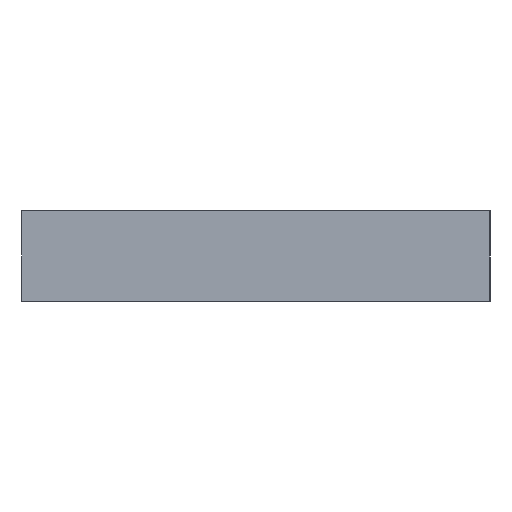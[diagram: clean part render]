
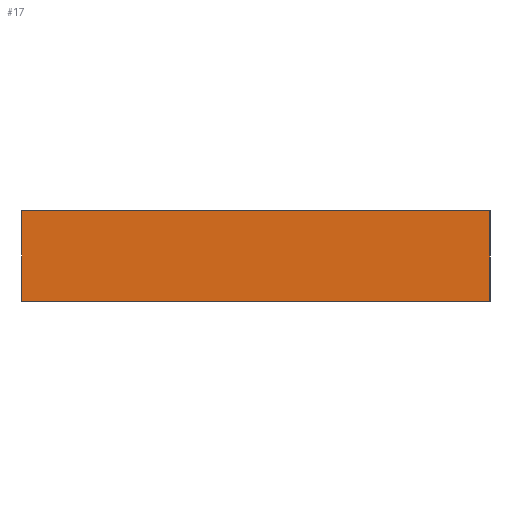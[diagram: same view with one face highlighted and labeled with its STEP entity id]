
A CAD part, left-side view. The second image highlights one B-rep face of the part: STEP entity #17.
In plain terms, the highlighted planar face has unit normal (-1, 0, 0).
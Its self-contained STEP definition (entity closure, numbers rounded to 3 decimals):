
#17 = ADVANCED_FACE('',(#18),#32,.F.);
#18 = FACE_BOUND('',#19,.F.);
#19 = EDGE_LOOP('',(#20,#55,#83,#111));
#20 = ORIENTED_EDGE('',*,*,#21,.F.);
#21 = EDGE_CURVE('',#22,#24,#26,.T.);
#22 = VERTEX_POINT('',#23);
#23 = CARTESIAN_POINT('',(0.,55.,10.6));
#24 = VERTEX_POINT('',#25);
#25 = CARTESIAN_POINT('',(0.,55.,0.));
#26 = SURFACE_CURVE('',#27,(#31,#43),.PCURVE_S1.);
#27 = LINE('',#28,#29);
#28 = CARTESIAN_POINT('',(0.,55.,10.6));
#29 = VECTOR('',#30,1.);
#30 = DIRECTION('',(0.,0.,-1.));
#31 = PCURVE('',#32,#37);
#32 = PLANE('',#33);
#33 = AXIS2_PLACEMENT_3D('',#34,#35,#36);
#34 = CARTESIAN_POINT('',(0.,55.,10.6));
#35 = DIRECTION('',(1.,0.,0.));
#36 = DIRECTION('',(0.,0.,-1.));
#37 = DEFINITIONAL_REPRESENTATION('',(#38),#42);
#38 = LINE('',#39,#40);
#39 = CARTESIAN_POINT('',(0.,0.));
#40 = VECTOR('',#41,1.);
#41 = DIRECTION('',(1.,0.));
#42 = ( GEOMETRIC_REPRESENTATION_CONTEXT(2) 
PARAMETRIC_REPRESENTATION_CONTEXT() REPRESENTATION_CONTEXT('2D SPACE',''
  ) );
#43 = PCURVE('',#44,#49);
#44 = PLANE('',#45);
#45 = AXIS2_PLACEMENT_3D('',#46,#47,#48);
#46 = CARTESIAN_POINT('',(0.,55.,10.6));
#47 = DIRECTION('',(0.,-1.,0.));
#48 = DIRECTION('',(0.,0.,-1.));
#49 = DEFINITIONAL_REPRESENTATION('',(#50),#54);
#50 = LINE('',#51,#52);
#51 = CARTESIAN_POINT('',(0.,0.));
#52 = VECTOR('',#53,1.);
#53 = DIRECTION('',(1.,0.));
#54 = ( GEOMETRIC_REPRESENTATION_CONTEXT(2) 
PARAMETRIC_REPRESENTATION_CONTEXT() REPRESENTATION_CONTEXT('2D SPACE',''
  ) );
#55 = ORIENTED_EDGE('',*,*,#56,.T.);
#56 = EDGE_CURVE('',#22,#57,#59,.T.);
#57 = VERTEX_POINT('',#58);
#58 = CARTESIAN_POINT('',(0.,0.,10.6));
#59 = SURFACE_CURVE('',#60,(#64,#71),.PCURVE_S1.);
#60 = LINE('',#61,#62);
#61 = CARTESIAN_POINT('',(0.,55.,10.6));
#62 = VECTOR('',#63,1.);
#63 = DIRECTION('',(0.,-1.,0.));
#64 = PCURVE('',#32,#65);
#65 = DEFINITIONAL_REPRESENTATION('',(#66),#70);
#66 = LINE('',#67,#68);
#67 = CARTESIAN_POINT('',(0.,0.));
#68 = VECTOR('',#69,1.);
#69 = DIRECTION('',(0.,-1.));
#70 = ( GEOMETRIC_REPRESENTATION_CONTEXT(2) 
PARAMETRIC_REPRESENTATION_CONTEXT() REPRESENTATION_CONTEXT('2D SPACE',''
  ) );
#71 = PCURVE('',#72,#77);
#72 = PLANE('',#73);
#73 = AXIS2_PLACEMENT_3D('',#74,#75,#76);
#74 = CARTESIAN_POINT('',(0.,55.,10.6));
#75 = DIRECTION('',(0.,0.,-1.));
#76 = DIRECTION('',(1.,0.,0.));
#77 = DEFINITIONAL_REPRESENTATION('',(#78),#82);
#78 = LINE('',#79,#80);
#79 = CARTESIAN_POINT('',(0.,0.));
#80 = VECTOR('',#81,1.);
#81 = DIRECTION('',(0.,1.));
#82 = ( GEOMETRIC_REPRESENTATION_CONTEXT(2) 
PARAMETRIC_REPRESENTATION_CONTEXT() REPRESENTATION_CONTEXT('2D SPACE',''
  ) );
#83 = ORIENTED_EDGE('',*,*,#84,.T.);
#84 = EDGE_CURVE('',#57,#85,#87,.T.);
#85 = VERTEX_POINT('',#86);
#86 = CARTESIAN_POINT('',(0.,0.,0.));
#87 = SURFACE_CURVE('',#88,(#92,#99),.PCURVE_S1.);
#88 = LINE('',#89,#90);
#89 = CARTESIAN_POINT('',(0.,0.,10.6));
#90 = VECTOR('',#91,1.);
#91 = DIRECTION('',(0.,0.,-1.));
#92 = PCURVE('',#32,#93);
#93 = DEFINITIONAL_REPRESENTATION('',(#94),#98);
#94 = LINE('',#95,#96);
#95 = CARTESIAN_POINT('',(0.,-55.));
#96 = VECTOR('',#97,1.);
#97 = DIRECTION('',(1.,0.));
#98 = ( GEOMETRIC_REPRESENTATION_CONTEXT(2) 
PARAMETRIC_REPRESENTATION_CONTEXT() REPRESENTATION_CONTEXT('2D SPACE',''
  ) );
#99 = PCURVE('',#100,#105);
#100 = PLANE('',#101);
#101 = AXIS2_PLACEMENT_3D('',#102,#103,#104);
#102 = CARTESIAN_POINT('',(0.,0.,10.6));
#103 = DIRECTION('',(0.,-1.,0.));
#104 = DIRECTION('',(0.,0.,-1.));
#105 = DEFINITIONAL_REPRESENTATION('',(#106),#110);
#106 = LINE('',#107,#108);
#107 = CARTESIAN_POINT('',(0.,0.));
#108 = VECTOR('',#109,1.);
#109 = DIRECTION('',(1.,0.));
#110 = ( GEOMETRIC_REPRESENTATION_CONTEXT(2) 
PARAMETRIC_REPRESENTATION_CONTEXT() REPRESENTATION_CONTEXT('2D SPACE',''
  ) );
#111 = ORIENTED_EDGE('',*,*,#112,.F.);
#112 = EDGE_CURVE('',#24,#85,#113,.T.);
#113 = SURFACE_CURVE('',#114,(#118,#125),.PCURVE_S1.);
#114 = LINE('',#115,#116);
#115 = CARTESIAN_POINT('',(0.,55.,0.));
#116 = VECTOR('',#117,1.);
#117 = DIRECTION('',(0.,-1.,0.));
#118 = PCURVE('',#32,#119);
#119 = DEFINITIONAL_REPRESENTATION('',(#120),#124);
#120 = LINE('',#121,#122);
#121 = CARTESIAN_POINT('',(10.6,0.));
#122 = VECTOR('',#123,1.);
#123 = DIRECTION('',(0.,-1.));
#124 = ( GEOMETRIC_REPRESENTATION_CONTEXT(2) 
PARAMETRIC_REPRESENTATION_CONTEXT() REPRESENTATION_CONTEXT('2D SPACE',''
  ) );
#125 = PCURVE('',#126,#131);
#126 = PLANE('',#127);
#127 = AXIS2_PLACEMENT_3D('',#128,#129,#130);
#128 = CARTESIAN_POINT('',(0.,55.,0.));
#129 = DIRECTION('',(0.,0.,-1.));
#130 = DIRECTION('',(1.,0.,0.));
#131 = DEFINITIONAL_REPRESENTATION('',(#132),#136);
#132 = LINE('',#133,#134);
#133 = CARTESIAN_POINT('',(0.,0.));
#134 = VECTOR('',#135,1.);
#135 = DIRECTION('',(0.,1.));
#136 = ( GEOMETRIC_REPRESENTATION_CONTEXT(2) 
PARAMETRIC_REPRESENTATION_CONTEXT() REPRESENTATION_CONTEXT('2D SPACE',''
  ) );
